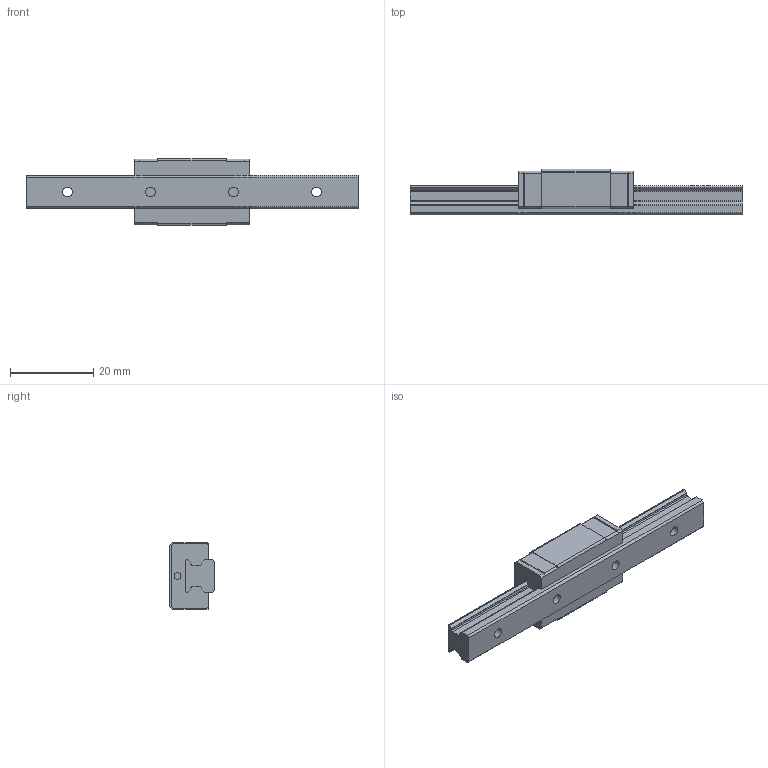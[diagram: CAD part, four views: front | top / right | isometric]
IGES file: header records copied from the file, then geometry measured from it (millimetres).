
Start section: Data from Parasolid IGES Translator 26.0.171, Copyright(c) 2006 Siemens PLM Software. All Rights Reserved.
Global section: file name: HRG8RM1UU-80LHM_G10_0_Without_grease_nipple_26-15_0_0_01.igs; native system: By Siemens PLM Incorporated; preprocessor: XPlus GENERIC/IGES 26.0.171; author: Noname; organization: Noname; date: 20240523.112300; units: millimetre
Bounding box: 80 x 11 x 16 mm (x, y, z)
Surface area: 4973.1 mm2 (no closed solid volume)
Topology: 0 solids, 0 shells, 143 faces, 794 edges, 770 vertices
Faces by surface type: extrusion 87, revolution 56
